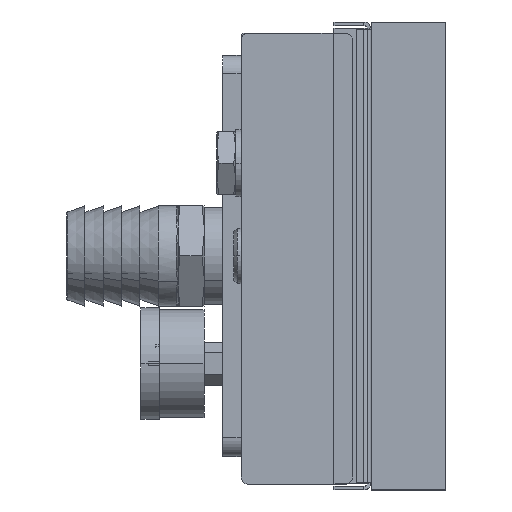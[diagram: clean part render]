
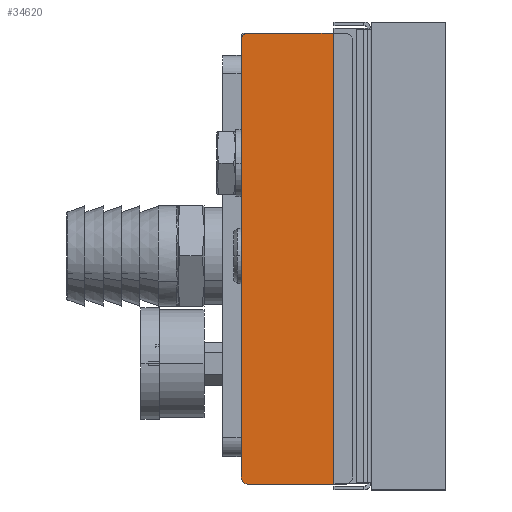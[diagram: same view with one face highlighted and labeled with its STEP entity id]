
A CAD part, left-side view. The second image highlights one B-rep face of the part: STEP entity #34620.
In plain terms, the highlighted planar face has unit normal (-1, 0, 0).
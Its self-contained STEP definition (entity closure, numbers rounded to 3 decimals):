
#2419 = ORIENTED_EDGE ( 'NONE', *, *, #19307, .T. ) ;
#2430 = ORIENTED_EDGE ( 'NONE', *, *, #19204, .T. ) ;
#2431 = ORIENTED_EDGE ( 'NONE', *, *, #19187, .T. ) ;
#2432 = ORIENTED_EDGE ( 'NONE', *, *, #19330, .T. ) ;
#2442 = ORIENTED_EDGE ( 'NONE', *, *, #19294, .T. ) ;
#2450 = ORIENTED_EDGE ( 'NONE', *, *, #19315, .T. ) ;
#2451 = ORIENTED_EDGE ( 'NONE', *, *, #19223, .T. ) ;
#2461 = ORIENTED_EDGE ( 'NONE', *, *, #19313, .T. ) ;
#10483 = AXIS2_PLACEMENT_3D ( 'NONE', #24541, #24542, #24543 ) ;
#10487 = AXIS2_PLACEMENT_3D ( 'NONE', #24544, #24545, #24546 ) ;
#10778 = AXIS2_PLACEMENT_3D ( 'NONE', #24533, #24534, #24535 ) ;
#10786 = AXIS2_PLACEMENT_3D ( 'NONE', #24565, #24566, #24567 ) ;
#19187 = EDGE_CURVE ( 'NONE', #39185, #39184, #51939, .T. ) ;
#19204 = EDGE_CURVE ( 'NONE', #39181, #39180, #51956, .T. ) ;
#19223 = EDGE_CURVE ( 'NONE', #39178, #39175, #51960, .T. ) ;
#19294 = EDGE_CURVE ( 'NONE', #39177, #39176, #52023, .T. ) ;
#19307 = EDGE_CURVE ( 'NONE', #39180, #39177, #52031, .T. ) ;
#19313 = EDGE_CURVE ( 'NONE', #39175, #39185, #52036, .T. ) ;
#19315 = EDGE_CURVE ( 'NONE', #39176, #39178, #52034, .T. ) ;
#19330 = EDGE_CURVE ( 'NONE', #39184, #39181, #52047, .T. ) ;
#24358 = CARTESIAN_POINT ( 'NONE',  ( -452.147, 52.332, 62.377 ) ) ;
#24359 = DIRECTION ( 'NONE',  ( 0., 1., 0. ) ) ;
#24390 = CARTESIAN_POINT ( 'NONE',  ( -452.147, 52.332, 62.377 ) ) ;
#24391 = DIRECTION ( 'NONE',  ( 0., 0., -1. ) ) ;
#24406 = DIRECTION ( 'NONE',  ( 0., 0., 1. ) ) ;
#24419 = CARTESIAN_POINT ( 'NONE',  ( -452.147, 22.332, 62.377 ) ) ;
#24514 = DIRECTION ( 'NONE',  ( 0., -1., 0. ) ) ;
#24515 = CARTESIAN_POINT ( 'NONE',  ( -452.147, 52.332, -59.123 ) ) ;
#24533 = CARTESIAN_POINT ( 'NONE',  ( -452.147, 50.332, -57.123 ) ) ;
#24534 = DIRECTION ( 'NONE',  ( -1., 0., 0. ) ) ;
#24535 = DIRECTION ( 'NONE',  ( 0., 0., 1. ) ) ;
#24541 = CARTESIAN_POINT ( 'NONE',  ( -452.147, 24.332, 60.377 ) ) ;
#24542 = DIRECTION ( 'NONE',  ( -1., 0., 0. ) ) ;
#24543 = DIRECTION ( 'NONE',  ( 0., 0., 1. ) ) ;
#24544 = CARTESIAN_POINT ( 'NONE',  ( -452.147, 24.332, -57.123 ) ) ;
#24545 = DIRECTION ( 'NONE',  ( -1., 0., 0. ) ) ;
#24546 = DIRECTION ( 'NONE',  ( 0., 0., 1. ) ) ;
#24565 = CARTESIAN_POINT ( 'NONE',  ( -452.147, 50.332, 60.377 ) ) ;
#24566 = DIRECTION ( 'NONE',  ( -1., 0., 0. ) ) ;
#24567 = DIRECTION ( 'NONE',  ( 0., 0., 1. ) ) ;
#34620 = ADVANCED_FACE ( 'NONE', ( #52262 ), #52451, .F. ) ;
#36284 = CARTESIAN_POINT ( 'NONE',  ( -452.147, 22.332, 60.377 ) ) ;
#36285 = CARTESIAN_POINT ( 'NONE',  ( -452.147, 24.332, -59.123 ) ) ;
#36286 = CARTESIAN_POINT ( 'NONE',  ( -452.147, 50.332, -59.123 ) ) ;
#36287 = CARTESIAN_POINT ( 'NONE',  ( -452.147, 22.332, -57.123 ) ) ;
#36290 = CARTESIAN_POINT ( 'NONE',  ( -452.147, 52.332, -57.123 ) ) ;
#36291 = CARTESIAN_POINT ( 'NONE',  ( -452.147, 52.332, 60.377 ) ) ;
#36294 = CARTESIAN_POINT ( 'NONE',  ( -452.147, 50.332, 62.377 ) ) ;
#36295 = CARTESIAN_POINT ( 'NONE',  ( -452.147, 24.332, 62.377 ) ) ;
#39175 = VERTEX_POINT ( 'NONE', #36284 ) ;
#39176 = VERTEX_POINT ( 'NONE', #36285 ) ;
#39177 = VERTEX_POINT ( 'NONE', #36286 ) ;
#39178 = VERTEX_POINT ( 'NONE', #36287 ) ;
#39180 = VERTEX_POINT ( 'NONE', #36290 ) ;
#39181 = VERTEX_POINT ( 'NONE', #36291 ) ;
#39184 = VERTEX_POINT ( 'NONE', #36294 ) ;
#39185 = VERTEX_POINT ( 'NONE', #36295 ) ;
#41258 = EDGE_LOOP ( 'NONE', ( #2442, #2450, #2451, #2461, #2431, #2432, #2430, #2419 ) ) ;
#43549 = AXIS2_PLACEMENT_3D ( 'NONE', #52458, #52459, #52460 ) ;
#51939 = LINE ( 'NONE', #24358, #51945 ) ;
#51945 = VECTOR ( 'NONE', #24359, 1000. ) ;
#51956 = LINE ( 'NONE', #24390, #51958 ) ;
#51958 = VECTOR ( 'NONE', #24391, 1000. ) ;
#51960 = LINE ( 'NONE', #24419, #51971 ) ;
#51971 = VECTOR ( 'NONE', #24406, 1000. ) ;
#52023 = LINE ( 'NONE', #24515, #52025 ) ;
#52025 = VECTOR ( 'NONE', #24514, 1000. ) ;
#52031 = CIRCLE ( 'NONE', #10778, 2. ) ;
#52034 = CIRCLE ( 'NONE', #10487, 2. ) ;
#52036 = CIRCLE ( 'NONE', #10483, 2. ) ;
#52047 = CIRCLE ( 'NONE', #10786, 2. ) ;
#52262 = FACE_OUTER_BOUND ( 'NONE', #41258, .T. ) ;
#52451 = PLANE ( 'NONE',  #43549 ) ;
#52458 = CARTESIAN_POINT ( 'NONE',  ( -452.147, 22.332, 62.377 ) ) ;
#52459 = DIRECTION ( 'NONE',  ( 1., 0., 0. ) ) ;
#52460 = DIRECTION ( 'NONE',  ( 0., 0., 1. ) ) ;
